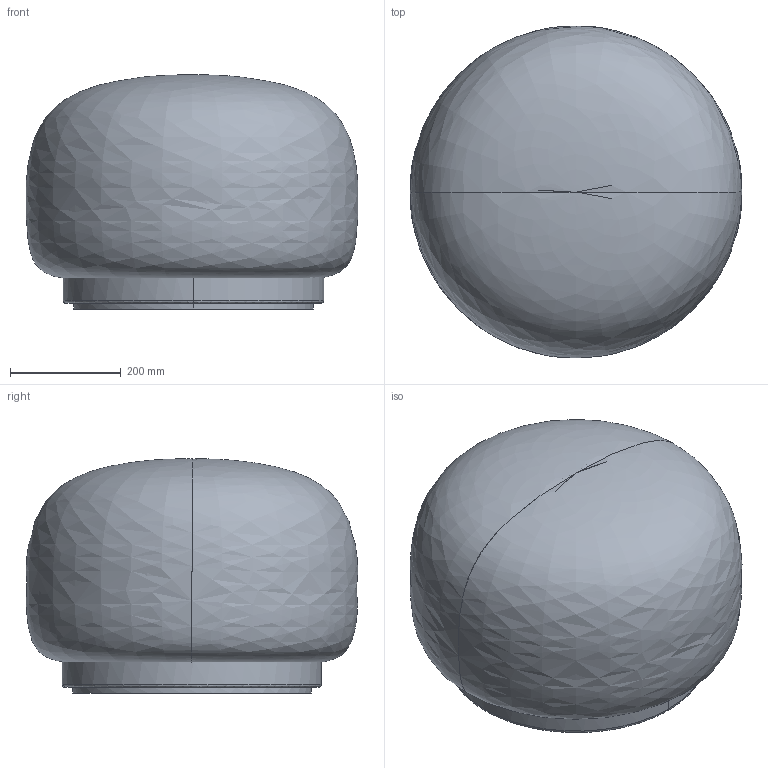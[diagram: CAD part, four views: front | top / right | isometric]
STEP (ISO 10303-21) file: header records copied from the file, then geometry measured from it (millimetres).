
FILE_DESCRIPTION(/* description */ (''),/* implementation_level */ '2;1');
FILE_NAME(/* name */ 'Rico Pouf_3D',/* time_stamp */ '2021-05-03T14:44:50+02:00',/* author */ (''),/* organization */ (''),/* preprocessor_version */ 'ST-DEVELOPER v16.5',/* originating_system */ '',/* authorisation */ '');
FILE_SCHEMA (('CONFIG_CONTROL_DESIGN'));
Length unit declared in the file: millimetre
Products named in the file (1): Document
Bounding box: 598.73 x 599.23 x 423.17 mm (x, y, z)
Surface area: 2788163.9 mm2
Topology: 3 solids, 5 shells, 41 faces, 125 edges, 88 vertices
Faces by surface type: bspline 41
Entity records: 11855 total; most frequent: CARTESIAN_POINT 11217, ORIENTED_EDGE 179, EDGE_CURVE 91, VERTEX_POINT 61, EDGE_LOOP 60, ADVANCED_FACE 41, FACE_OUTER_BOUND 41, B_SPLINE_CURVE_WITH_KNOTS 28
